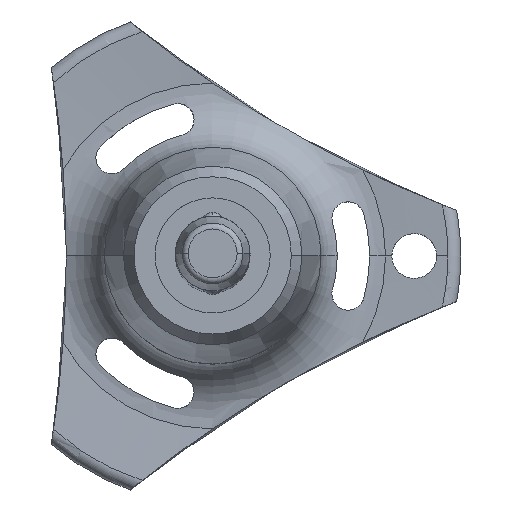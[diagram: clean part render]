
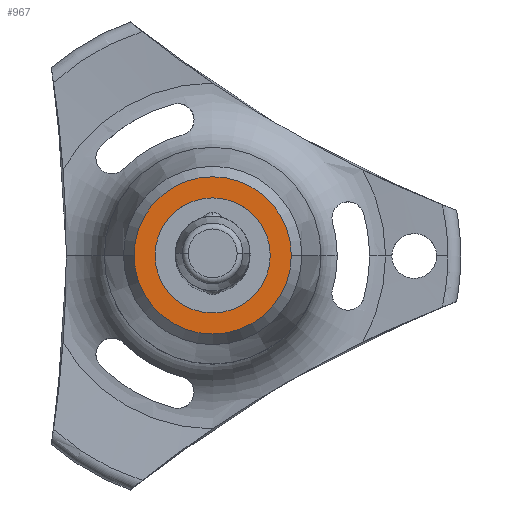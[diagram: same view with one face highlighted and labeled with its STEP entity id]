
A CAD part, top view. The second image highlights one B-rep face of the part: STEP entity #967.
In plain terms, the highlighted planar face has unit normal (0, 0, 1).
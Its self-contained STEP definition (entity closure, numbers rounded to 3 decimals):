
#22 = AXIS2_PLACEMENT_3D ( 'NONE', #32, #1531, #1549 ) ;
#32 = CARTESIAN_POINT ( 'NONE',  ( 0., 0., -70.4 ) ) ;
#35 = DIRECTION ( 'NONE',  ( 1., 0., 0. ) ) ;
#124 = ORIENTED_EDGE ( 'NONE', *, *, #2233, .F. ) ;
#211 = DIRECTION ( 'NONE',  ( 0., 0., -1. ) ) ;
#279 = CIRCLE ( 'NONE', #1860, 5.262 ) ;
#357 = AXIS2_PLACEMENT_3D ( 'NONE', #2333, #1038, #35 ) ;
#417 = VERTEX_POINT ( 'NONE', #2029 ) ;
#424 = CARTESIAN_POINT ( 'NONE',  ( 0., 0., -70.4 ) ) ;
#427 = CARTESIAN_POINT ( 'NONE',  ( 0., 0., -70.4 ) ) ;
#500 = AXIS2_PLACEMENT_3D ( 'NONE', #427, #1291, #2360 ) ;
#611 = DIRECTION ( 'NONE',  ( -1., 0., 0. ) ) ;
#630 = CIRCLE ( 'NONE', #500, 3.852 ) ;
#689 = AXIS2_PLACEMENT_3D ( 'NONE', #1432, #211, #611 ) ;
#698 = ORIENTED_EDGE ( 'NONE', *, *, #2474, .T. ) ;
#729 = VERTEX_POINT ( 'NONE', #798 ) ;
#798 = CARTESIAN_POINT ( 'NONE',  ( -5.262, 0., -70.4 ) ) ;
#836 = VERTEX_POINT ( 'NONE', #1825 ) ;
#882 = DIRECTION ( 'NONE',  ( -1., 0., 0. ) ) ;
#963 = CIRCLE ( 'NONE', #22, 3.852 ) ;
#967 = ADVANCED_FACE ( 'NONE', ( #1084, #1507 ), #1295, .T. ) ;
#1038 = DIRECTION ( 'NONE',  ( 0., 0., 1. ) ) ;
#1084 = FACE_BOUND ( 'NONE', #2071, .T. ) ;
#1229 = CIRCLE ( 'NONE', #689, 5.262 ) ;
#1291 = DIRECTION ( 'NONE',  ( 0., 0., -1. ) ) ;
#1295 = PLANE ( 'NONE',  #357 ) ;
#1340 = ORIENTED_EDGE ( 'NONE', *, *, #1349, .T. ) ;
#1349 = EDGE_CURVE ( 'NONE', #2530, #836, #630, .T. ) ;
#1372 = CARTESIAN_POINT ( 'NONE',  ( -3.852, 0., -70.4 ) ) ;
#1432 = CARTESIAN_POINT ( 'NONE',  ( 0., 0., -70.4 ) ) ;
#1507 = FACE_OUTER_BOUND ( 'NONE', #2609, .T. ) ;
#1531 = DIRECTION ( 'NONE',  ( 0., 0., -1. ) ) ;
#1549 = DIRECTION ( 'NONE',  ( -1., 0., 0. ) ) ;
#1825 = CARTESIAN_POINT ( 'NONE',  ( 3.852, 0., -70.4 ) ) ;
#1860 = AXIS2_PLACEMENT_3D ( 'NONE', #424, #1912, #882 ) ;
#1912 = DIRECTION ( 'NONE',  ( 0., 0., -1. ) ) ;
#1914 = ORIENTED_EDGE ( 'NONE', *, *, #2057, .F. ) ;
#2029 = CARTESIAN_POINT ( 'NONE',  ( 5.262, 0., -70.4 ) ) ;
#2057 = EDGE_CURVE ( 'NONE', #417, #729, #279, .T. ) ;
#2071 = EDGE_LOOP ( 'NONE', ( #1340, #698 ) ) ;
#2233 = EDGE_CURVE ( 'NONE', #729, #417, #1229, .T. ) ;
#2333 = CARTESIAN_POINT ( 'NONE',  ( 0., 3.852, -70.4 ) ) ;
#2360 = DIRECTION ( 'NONE',  ( -1., 0., 0. ) ) ;
#2474 = EDGE_CURVE ( 'NONE', #836, #2530, #963, .T. ) ;
#2530 = VERTEX_POINT ( 'NONE', #1372 ) ;
#2609 = EDGE_LOOP ( 'NONE', ( #124, #1914 ) ) ;
